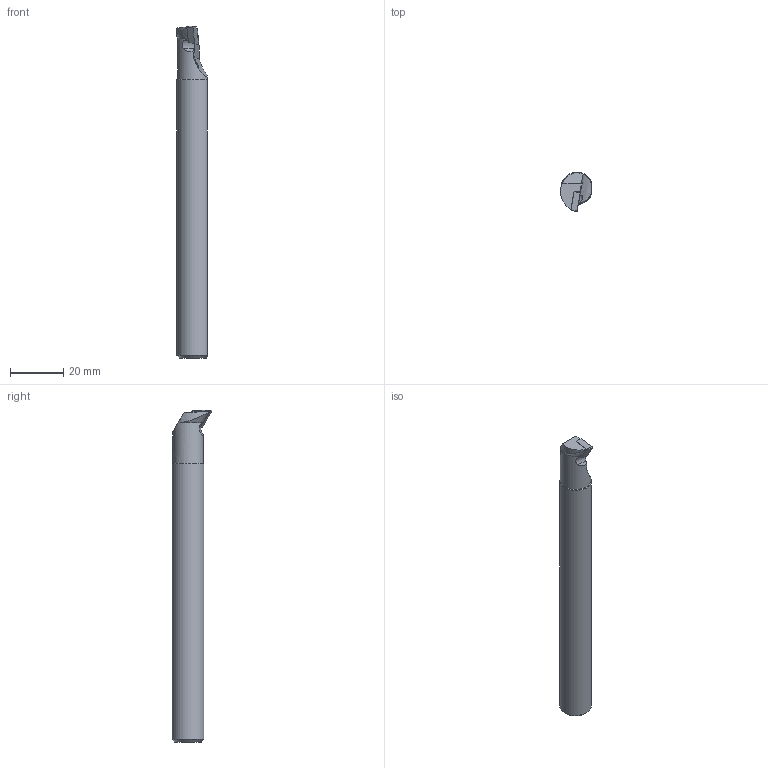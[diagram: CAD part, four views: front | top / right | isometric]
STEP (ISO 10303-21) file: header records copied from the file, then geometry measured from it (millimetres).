
FILE_DESCRIPTION(/* description */ (''),/* implementation_level */ '2;1');
FILE_NAME(/* name */ 'A12K-SDUCR-07-HAAS.stp',/* time_stamp */ '2021-09-29T10:51:09+09:00',/* author */ (''),/* organization */ (''),/* preprocessor_version */ 'ST-DEVELOPER v16',/* originating_system */ 'SIEMENS PLM Software NX 10.0',/* authorisation */ '');
FILE_SCHEMA (('AUTOMOTIVE_DESIGN { 1 0 10303 214 3 1 1 1 }'));
Length unit declared in the file: millimetre
Products named in the file (1): model2
Bounding box: 11.67 x 14.99 x 125 mm (x, y, z)
Volume: 12302.1 mm3; surface area: 5778.5 mm2
Topology: 1 solids, 1 shells, 30 faces, 79 edges, 51 vertices
Faces by surface type: plane 17, cylinder 6, cone 5, bspline 1, extrusion 1
Full cylindrical faces by diameter (mm): 2.5 x1, 3 x1
Entity records: 1009 total; most frequent: CARTESIAN_POINT 272, ORIENTED_EDGE 148, DIRECTION 142, EDGE_CURVE 74, AXIS2_PLACEMENT_3D 51, VERTEX_POINT 49, VECTOR 40, LINE 39
